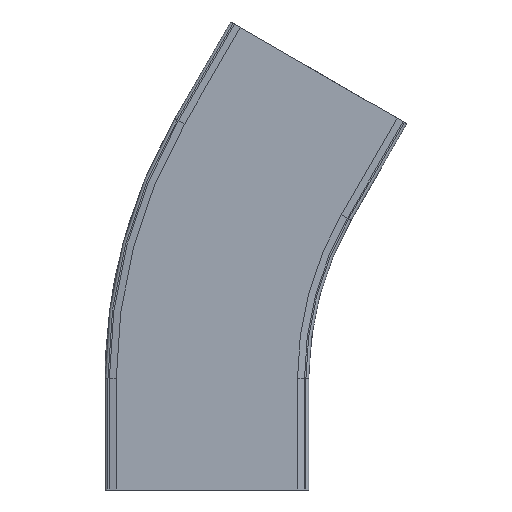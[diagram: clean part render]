
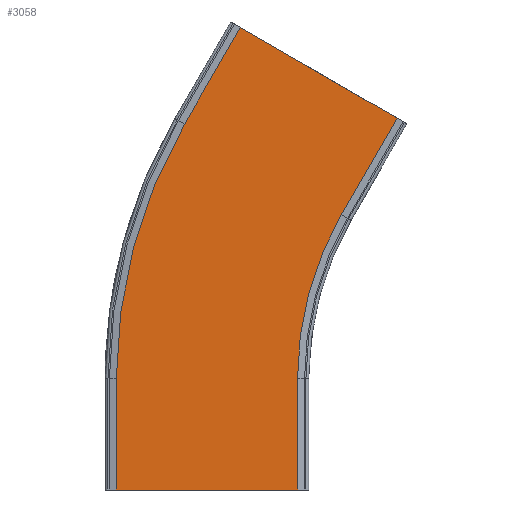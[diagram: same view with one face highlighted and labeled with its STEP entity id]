
A CAD part, front view. The second image highlights one B-rep face of the part: STEP entity #3058.
In plain terms, the highlighted planar face has unit normal (0, -1, 0).
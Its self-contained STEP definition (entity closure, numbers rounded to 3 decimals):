
#113=CIRCLE('',#3252,235.);
#114=CIRCLE('',#3254,365.);
#248=FACE_OUTER_BOUND('',#415,.T.);
#415=EDGE_LOOP('',(#2053,#2054,#2055,#2056,#2057,#2058,#2059,#2060));
#585=LINE('',#4286,#927);
#589=LINE('',#4293,#931);
#600=LINE('',#4326,#942);
#601=LINE('',#4328,#943);
#602=LINE('',#4329,#944);
#603=LINE('',#4330,#945);
#927=VECTOR('',#3480,10.);
#931=VECTOR('',#3486,10.);
#942=VECTOR('',#3517,10.);
#943=VECTOR('',#3518,10.);
#944=VECTOR('',#3519,10.);
#945=VECTOR('',#3520,10.);
#1269=VERTEX_POINT('',#4283);
#1270=VERTEX_POINT('',#4285);
#1272=VERTEX_POINT('',#4291);
#1281=VERTEX_POINT('',#4317);
#1282=VERTEX_POINT('',#4319);
#1283=VERTEX_POINT('',#4323);
#1284=VERTEX_POINT('',#4325);
#1285=VERTEX_POINT('',#4327);
#1569=EDGE_CURVE('',#1270,#1269,#585,.T.);
#1573=EDGE_CURVE('',#1272,#1269,#589,.T.);
#1586=EDGE_CURVE('',#1282,#1281,#113,.T.);
#1588=EDGE_CURVE('',#1283,#1272,#114,.T.);
#1589=EDGE_CURVE('',#1284,#1283,#600,.T.);
#1590=EDGE_CURVE('',#1284,#1285,#601,.T.);
#1591=EDGE_CURVE('',#1285,#1282,#602,.T.);
#1592=EDGE_CURVE('',#1281,#1270,#603,.T.);
#2053=ORIENTED_EDGE('',*,*,#1569,.T.);
#2054=ORIENTED_EDGE('',*,*,#1573,.F.);
#2055=ORIENTED_EDGE('',*,*,#1588,.F.);
#2056=ORIENTED_EDGE('',*,*,#1589,.F.);
#2057=ORIENTED_EDGE('',*,*,#1590,.T.);
#2058=ORIENTED_EDGE('',*,*,#1591,.T.);
#2059=ORIENTED_EDGE('',*,*,#1586,.T.);
#2060=ORIENTED_EDGE('',*,*,#1592,.T.);
#2943=PLANE('',#3253);
#3058=ADVANCED_FACE('',(#248),#2943,.T.);
#3252=AXIS2_PLACEMENT_3D('',#4320,#3510,#3511);
#3253=AXIS2_PLACEMENT_3D('',#4322,#3513,#3514);
#3254=AXIS2_PLACEMENT_3D('',#4324,#3515,#3516);
#3480=DIRECTION('',(-0.866,0.,0.5));
#3486=DIRECTION('',(0.5,0.,0.866));
#3510=DIRECTION('center_axis',(0.,1.,0.));
#3511=DIRECTION('ref_axis',(-1.,0.,0.));
#3513=DIRECTION('center_axis',(0.,-1.,0.));
#3514=DIRECTION('ref_axis',(-0.5,0.,-0.866));
#3515=DIRECTION('center_axis',(0.,1.,0.));
#3516=DIRECTION('ref_axis',(-1.,0.,0.));
#3517=DIRECTION('',(0.,0.,1.));
#3518=DIRECTION('',(1.,0.,0.));
#3519=DIRECTION('',(0.,0.,1.));
#3520=DIRECTION('',(0.5,0.,0.866));
#4283=CARTESIAN_POINT('',(62.901,-72.,331.782));
#4285=CARTESIAN_POINT('',(175.485,-72.,266.782));
#4286=CARTESIAN_POINT('',(146.04,-72.,283.782));
#4291=CARTESIAN_POINT('',(22.901,-72.,262.5));
#4293=CARTESIAN_POINT('',(-95.638,-72.,57.183));
#4317=CARTESIAN_POINT('',(135.485,-72.,197.5));
#4319=CARTESIAN_POINT('',(104.001,-72.,80.));
#4320=CARTESIAN_POINT('Origin',(339.001,-72.,80.));
#4322=CARTESIAN_POINT('Origin',(16.945,-72.,-7.817));
#4323=CARTESIAN_POINT('',(-25.999,-72.,80.));
#4324=CARTESIAN_POINT('Origin',(339.001,-72.,80.));
#4325=CARTESIAN_POINT('',(-25.999,-72.,0.));
#4326=CARTESIAN_POINT('',(-25.999,-72.,0.));
#4327=CARTESIAN_POINT('',(104.001,-72.,0.));
#4328=CARTESIAN_POINT('',(-25.999,-72.,0.));
#4329=CARTESIAN_POINT('',(104.001,-72.,0.));
#4330=CARTESIAN_POINT('',(16.945,-72.,-7.817));
